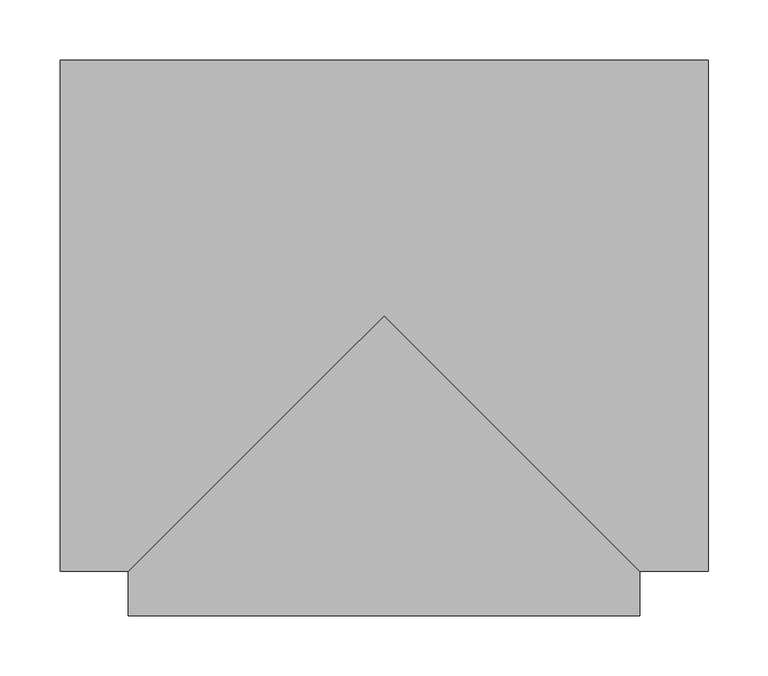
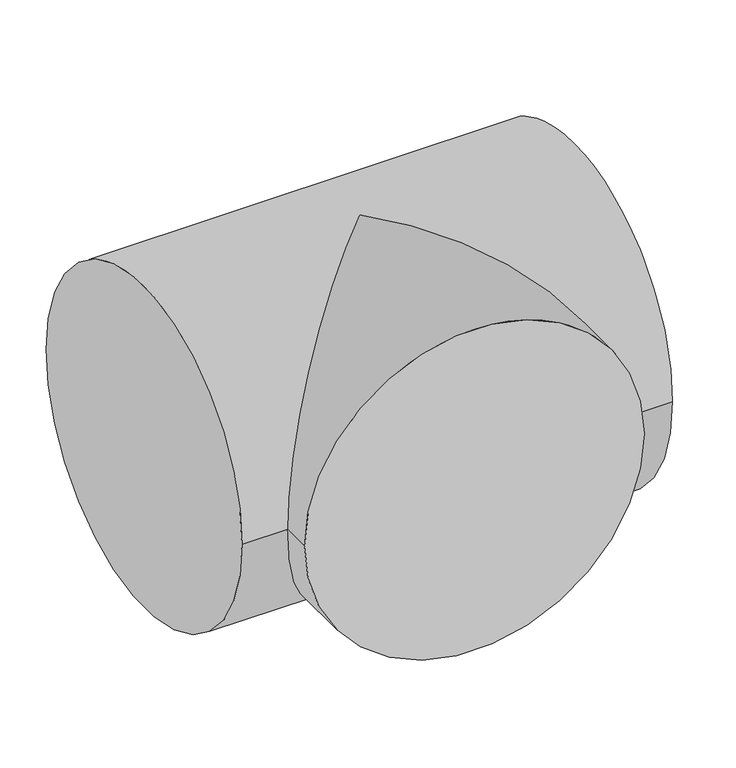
"""IFC4 building model written with IfcOpenShell, lengths in millimetres: pipe fitting geometry, ADSK_ДетальСтальнаяСварная_Тройник_ГОСТ17376-2001 : Исполнение 2."""

from ifc_helpers import new_model, si_unit, frame, origin, place, context, project, spatial, circle_curve, ellipse_curve, source, transform, mapped, element, save
from ifc_brep_helpers import plane_surface, cylinder_surface, advanced_brep


def pipe_fitting_29eb33f1(model_context):
    return source(origin(), model_context, "Body", "AdvancedBrep", [
        advanced_brep(
        [(-270.0, -213.0, 0.0), (-270.0, 213.0, 0.0), (270.0, -213.0, 0.0), (270.0, 213.0, 0.0), (-213.0, -213.0, 0.0), (0.0, 0.0, 213.0), (213.0, -213.0, 0.0), (0.0, 0.0, -213.0), (-213.0, -250.0, 0.0), (213.0, -250.0, 0.0)],
        [
            (0, 1, circle_curve(frame((-270.0, 0.0, 0.0), z_axis=(-1.0, 0.0, 0.0), x_axis=(0.0, 1.0, 0.0)), 213.0)),
            (1, 0, circle_curve(frame((-270.0, 0.0, 0.0), z_axis=(-1.0, 0.0, 0.0), x_axis=(0.0, 1.0, 0.0)), 213.0)),
            (2, 3, circle_curve(frame((270.0, 0.0, 0.0), z_axis=(1.0, 0.0, 0.0), x_axis=(0.0, 1.0, 0.0)), 213.0)),
            (3, 2, circle_curve(frame((270.0, 0.0, 0.0), z_axis=(1.0, 0.0, 0.0), x_axis=(0.0, 1.0, 0.0)), 213.0)),
            (0, 4),
            (4, 5, ellipse_curve(frame((0.0, 0.0, 0.0), z_axis=(-0.707106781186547, 0.7071067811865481, 0.0), x_axis=(-0.707106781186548, -0.707106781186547, 0.0)), 301.2274888, 213.0)),
            (5, 6, ellipse_curve(frame((0.0, 0.0, 0.0), z_axis=(0.707106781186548, 0.7071067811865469, 0.0), x_axis=(-0.707106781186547, 0.707106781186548, 0.0)), 301.2274888, 213.0)),
            (6, 2),
            (3, 1),
            (6, 7, ellipse_curve(frame((0.0, 0.0, 0.0), z_axis=(0.707106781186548, 0.7071067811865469, 0.0), x_axis=(-0.707106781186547, 0.707106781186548, 0.0)), 301.2274888, 213.0)),
            (7, 4, ellipse_curve(frame((0.0, 0.0, 0.0), z_axis=(-0.707106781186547, 0.7071067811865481, 0.0), x_axis=(-0.707106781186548, -0.707106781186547, 0.0)), 301.2274888, 213.0)),
            (8, 9, circle_curve(frame((0.0, -250.0, 0.0), z_axis=(0.0, -1.0, 0.0), x_axis=(1.0, 0.0, 0.0)), 213.0)),
            (9, 8, circle_curve(frame((0.0, -250.0, 0.0), z_axis=(0.0, -1.0, 0.0), x_axis=(1.0, 0.0, 0.0)), 213.0)),
            (9, 6),
            (4, 8),
        ],
        [
            plane_surface(frame((-270.0, 0.0, 0.0), z_axis=(-1.0, 0.0, 0.0), x_axis=(0.0, 0.0, 1.0))),
            plane_surface(frame((270.0, 0.0, 0.0), z_axis=(1.0, 0.0, 0.0), x_axis=(0.0, 0.0, 1.0))),
            cylinder_surface(frame((-270.0, 0.0, 0.0), z_axis=(-1.0, 0.0, 0.0), x_axis=(0.0, 1.0, 0.0)), 213.0),
            plane_surface(frame((0.0, -250.0, 0.0), z_axis=(0.0, -1.0, 0.0), x_axis=(0.0, 0.0, 1.0))),
            cylinder_surface(frame((0.0, 0.0, 0.0), z_axis=(0.0, 1.0, 0.0), x_axis=(1.0, 0.0, 0.0)), 213.0),
        ],
        [
            (0, [[1, 2]]),
            (1, [[3, 4]]),
            (2, [[-1, 5, 6, 7, 8, -4, 9]]),
            (2, [[-2, -9, -3, -8, 10, 11, -5]]),
            (3, [[12, 13]]),
            (4, [[-13, 14, -7, -6, 15]]),
            (4, [[-12, -15, -11, -10, -14]]),
        ],
    ),
    ])


if __name__ == "__main__":
    model = new_model("IFC4")
    model_context = context("Model", 3, world=origin())
    ifc_project = project(units=[si_unit("LENGTHUNIT", "METRE", prefix="MILLI")], contexts=[model_context])
    site = spatial("IfcSite", under=ifc_project)
    building = spatial("IfcBuilding", under=site)
    placement = place(None, origin())
    pipe_fitting_shape = pipe_fitting_29eb33f1(model_context)
    element("IfcPipeFitting", 1, ObjectType="ADSK_ДетальСтальнаяСварная_Тройник_ГОСТ17376-2001 : Исполнение 2", at=placement, inside=building, context=model_context, shape_type="MappedRepresentation", body=[
        mapped(pipe_fitting_shape, transform((0.0, 0.0, 0.0), x_axis=(1.0, 0.0, 0.0), y_axis=(0.0, 1.0, 0.0), z_axis=(0.0, 0.0, 1.0))),
    ])
    save(model, "model.ifc")
